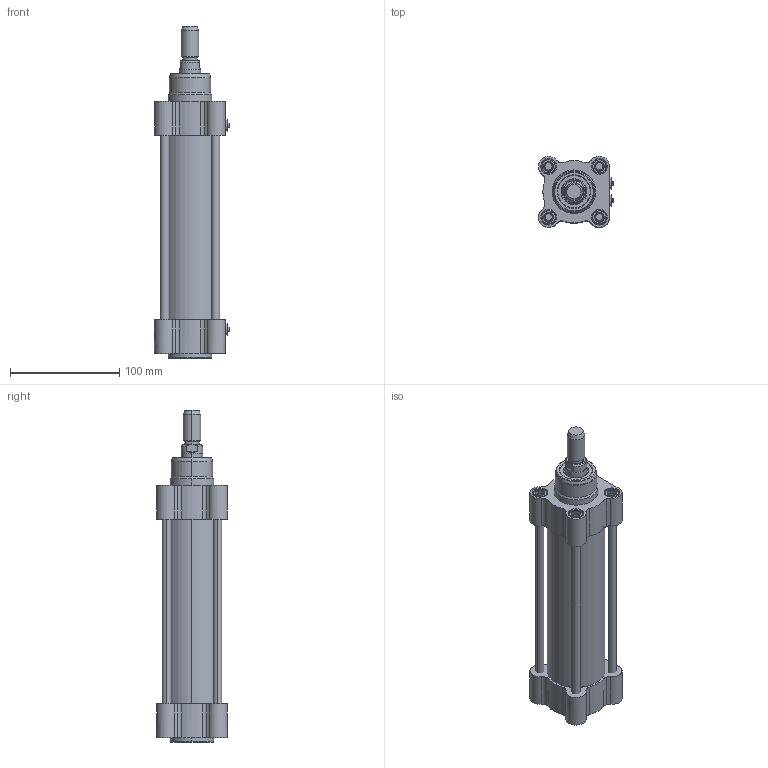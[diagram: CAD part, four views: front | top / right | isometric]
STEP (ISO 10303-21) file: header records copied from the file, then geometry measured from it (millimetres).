
FILE_DESCRIPTION (( 'STEP AP203' ), '1' );
FILE_NAME ('CTMI50-125.STEP', '2020-03-26T19:21:43', ( '' ), ( '' ), 'SwSTEP 2.0', 'SolidWorks 2019', '' );
FILE_SCHEMA (( 'CONFIG_CONTROL_DESIGN' ));
Length unit declared in the file: millimetre
Products named in the file (1): CTMI50-125
Bounding box: 68.7 x 65 x 304 mm (x, y, z)
Surface area: 153508.2 mm2 (no closed solid volume)
Topology: 0 solids, 26 shells, 733 faces, 1698 edges, 1052 vertices
Faces by surface type: cone 229, cylinder 204, plane 196, torus 88, bspline 16
Entity records: 26997 total; most frequent: CARTESIAN_POINT 11533, ORIENTED_EDGE 3340, DIRECTION 2906, EDGE_CURVE 1698, AXIS2_PLACEMENT_3D 1202, VERTEX_POINT 1052, EDGE_LOOP 806, FACE_OUTER_BOUND 733
